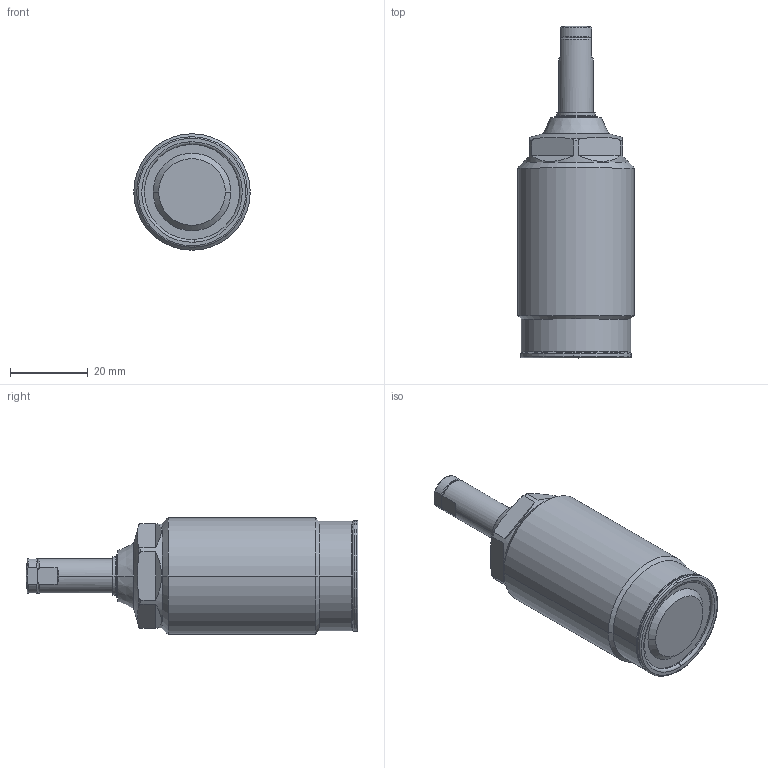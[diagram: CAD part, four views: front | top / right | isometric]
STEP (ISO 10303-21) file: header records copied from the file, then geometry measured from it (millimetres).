
FILE_DESCRIPTION(/* description */ (''),/* implementation_level */ '2;1');
FILE_NAME(/* name */ 'TNE30-Q.stp',/* time_stamp */ '2024-01-16T10:29:51+08:00',/* author */ (''),/* organization */ (''),/* preprocessor_version */ 'ST-DEVELOPER v16.7',/* originating_system */ 'SIEMENS PLM Software NX 12.0',/* authorisation */ '');
FILE_SCHEMA (('AP203_CONFIGURATION_CONTROLLED_3D_DESIGN_OF_MECHANICAL_PARTS_AND_ASSEMBLIES_MIM_LF { 1 0 10303 403 2 1 2}'));
Length unit declared in the file: millimetre
Products named in the file (6): TNE30-Q-5; TNE30-Q-4; TNE30-Q-3; TNE30-Q-2; TNE30-Q-01; WNC1003-Q_step
Assembly tree (5 placements, depth 2):
  WNC1003-Q_step
    TNE30-Q-01
    TNE30-Q-2
    TNE30-Q-3
    TNE30-Q-4
    TNE30-Q-5
Bounding box: 30 x 85.5 x 30 mm (x, y, z)
Volume: 39296.6 mm3; surface area: 8634.5 mm2
Topology: 5 solids, 5 shells, 130 faces, 288 edges, 175 vertices
Faces by surface type: torus 40, cylinder 34, plane 34, cone 20, sphere 2
Entity records: 4637 total; most frequent: CARTESIAN_POINT 1043, DIRECTION 676, ORIENTED_EDGE 576, AXIS2_PLACEMENT_3D 296, EDGE_CURVE 288, VERTEX_POINT 175, CIRCLE 160, EDGE_LOOP 141
